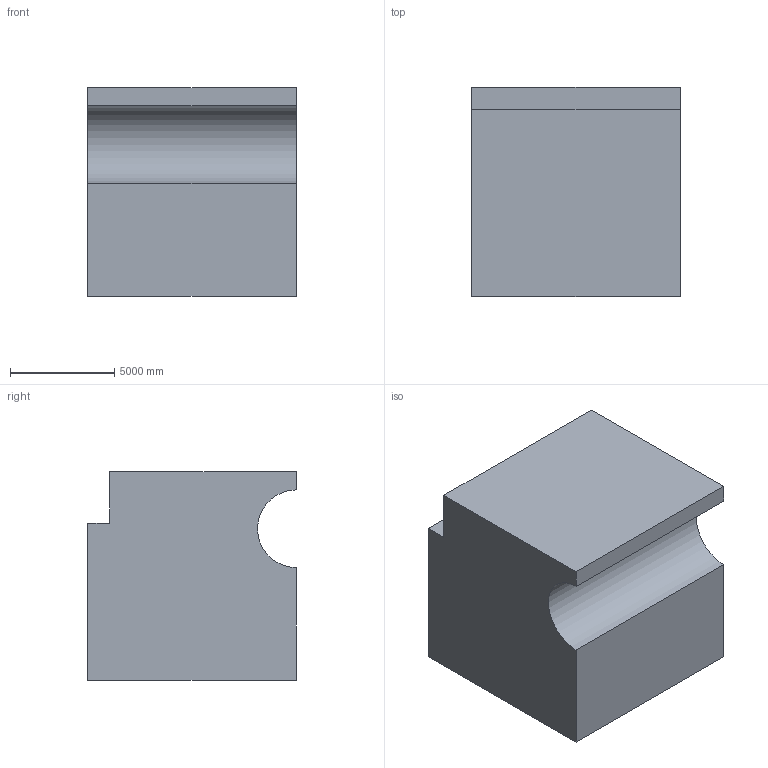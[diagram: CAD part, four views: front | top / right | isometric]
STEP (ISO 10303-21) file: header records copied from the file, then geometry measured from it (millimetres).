
FILE_DESCRIPTION (( 'STEP AP203' ), '1' );
FILE_NAME ('20.STEP', '2022-08-31T11:11:04', ( 'user' ), ( '' ), 'SwSTEP 2.0', 'SolidWorks 2021', '' );
FILE_SCHEMA (( 'CONFIG_CONTROL_DESIGN' ));
Length unit declared in the file: centimetre
Products named in the file (1): 20
Bounding box: 10000 x 10000 x 10000 mm (x, y, z)
Volume: 919539983438.7 mm3; surface area: 605162576.3 mm2
Topology: 1 solids, 1 shells, 10 faces, 24 edges, 16 vertices
Faces by surface type: plane 9, cylinder 1
Entity records: 367 total; most frequent: CARTESIAN_POINT 51, DIRECTION 48, ORIENTED_EDGE 48, EDGE_CURVE 24, VECTOR 22, LINE 22, VERTEX_POINT 16, AXIS2_PLACEMENT_3D 13
